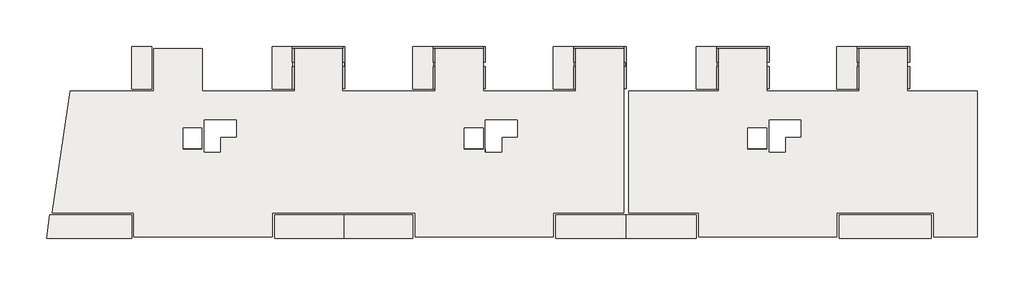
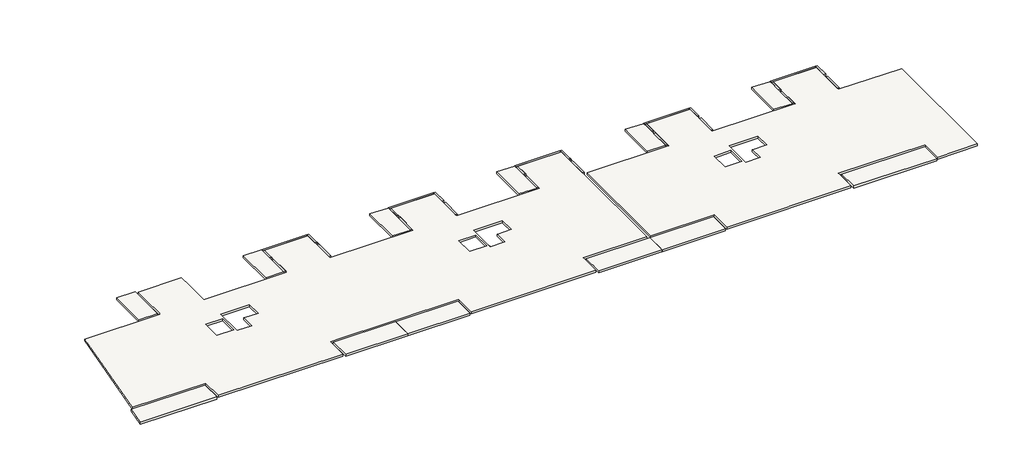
# One storey: 18 beams, 14 slabs.
"""IFC4 building model written with IfcOpenShell, lengths in millimetres."""

from ifc_helpers import new_model, si_unit, frame, origin, place, context, project, spatial, polyline, outline, extrude, faceted_brep, element, save

model = new_model("IFC4")

# Units and contexts
model_context = context("Model", 3, world=origin())
ifc_project = project(units=[si_unit("LENGTHUNIT", "METRE", prefix="MILLI")], contexts=[model_context])

# Site, building, storey
site = spatial("IfcSite", under=ifc_project)
building = spatial("IfcBuilding", under=site)
storey = spatial("IfcBuildingStorey", under=building, Name="Niv +1", Elevation=2700.0)

# Beams
placement = place(None, origin())
element("IfcBeam", 1, ObjectType="FREYS POUTRE BETON : -FREYS béton 20*38 C 25/30", at=placement, inside=storey, context=model_context, shape_type="SweptSolid", body=[
    extrude(outline(polyline([(-20235.4433224, 1086.34287), (-20235.4433224, 1286.34287), (-18635.4741279, 1286.34287), (-18635.4741279, 1086.34287), (-20235.4433224, 1086.34287)])), frame((0.0, 0.0, 2320.0), z_axis=(0.0, 0.0, 1.0), x_axis=(1.0, 0.0, 0.0)), (0.0, 0.0, 1.0), 180.0),
])
element("IfcBeam", 2, ObjectType="FREYS POUTRE BETON : -FREYS béton 20*38 C 25/30", at=placement, inside=storey, context=model_context, shape_type="SweptSolid", body=[
    extrude(outline(polyline([(5564.5312777, 1286.34287), (5564.5312777, 1086.34287), (5562.590834, 1086.34287), (5562.590834, 1286.34287), (5564.5312777, 1286.34287)])), frame((0.0, 0.0, 2500.0), z_axis=(0.0, 0.0, 1.0), x_axis=(1.0, 0.0, 0.0)), (0.0, 0.0, 1.0), 200.0),
    extrude(outline(polyline([(5364.5312777, 1286.34287), (5364.5312777, 1086.34287), (3764.5312756, 1086.34287), (3764.5312756, 1286.34287), (5364.5312777, 1286.34287)])), frame((0.0, 0.0, 2320.0), z_axis=(0.0, 0.0, 1.0), x_axis=(1.0, 0.0, 0.0)), (0.0, 0.0, 1.0), 180.0),
])
element("IfcBeam", 3, ObjectType="FREYS POUTRE BETON : -FREYS béton 20*38 C 25/30", at=placement, inside=storey, context=model_context, shape_type="SweptSolid", body=[
    extrude(outline(polyline([(27964.5312756, 1086.34287), (27964.5312756, 1286.34287), (29564.5058756, 1286.34287), (29564.5058756, 1086.34287), (27964.5312756, 1086.34287)])), frame((0.0, 0.0, 2320.0), z_axis=(0.0, 0.0, 1.0), x_axis=(1.0, 0.0, 0.0)), (0.0, 0.0, 1.0), 180.0),
])
element("IfcBeam", 4, ObjectType="FREYS POUTRE BETON : -FREYS béton 30*49 C 35/45", at=placement, inside=storey, context=model_context, shape_type="Brep", body=[
    faceted_brep([(-10905.0456065, 6426.3702418, 2700.0), (-10725.0456065, 6426.3702418, 2700.0), (-10725.0456065, 8346.3428728, 2700.0), (-10905.0456065, 8346.3428728, 2700.0), (-10415.0456065, 6426.3702418, 2400.0), (-10415.0456065, 9876.3428653, 2400.0), (-10415.0456065, 9876.3428653, 2500.0), (-10415.0456065, 6426.3702418, 2500.0), (-10905.0456065, 9876.3428653, 2400.0), (-10905.0456065, 6426.3702418, 2400.0), (-10905.0456065, 8346.3428728, 2400.0), (-10605.3743903, 8346.3428728, 2400.0), (-10605.3743903, 8696.3428728, 2400.0), (-10905.0456065, 8696.3428728, 2400.0), (-10905.0456065, 6426.3702418, 2490.0), (-10905.0456065, 6426.3702418, 2670.0), (-10905.0456065, 8346.3428728, 2670.0), (-10905.0456065, 8346.3428728, 2490.0), (-10905.0456065, 9876.3428653, 2700.0), (-10725.0456065, 9876.3428653, 2700.0), (-10725.0456065, 9876.3428653, 2500.0), (-10725.0456065, 6426.3702418, 2500.0), (-10725.0456065, 8696.3428728, 2500.0), (-10605.3743903, 8696.3428728, 2500.0), (-10605.3743903, 8346.3428728, 2500.0), (-10725.0456065, 8346.3428728, 2500.0), (-10725.0456065, 8696.3428728, 2700.0), (-10905.0456065, 8696.3428728, 2700.0), (-10905.0456065, 8696.3428728, 2670.0), (-10905.0456065, 8696.3428728, 2490.0)], [[[0, 1, 2, 3]], [[4, 5, 6, 7]], [[8, 5, 4, 9, 10, 11, 12, 13]], [[9, 14, 15, 0, 3, 16, 17, 10]], [[5, 8, 18, 19, 20, 6]], [[9, 4, 7, 21, 1, 0, 15, 14]], [[7, 6, 20, 22, 23, 24, 25, 21]], [[1, 21, 25, 2]], [[11, 24, 23, 12]], [[24, 11, 10, 17, 16, 3, 2, 25]], [[12, 23, 22, 26, 27, 28, 29, 13]], [[19, 18, 27, 26]], [[18, 8, 13, 29, 28, 27]], [[20, 19, 26, 22]]]),
])
element("IfcBeam", 5, ObjectType="FREYS POUTRE BETON : -FREYS béton 18*54 C 35/45", at=placement, inside=storey, context=model_context, shape_type="Brep", body=[
    faceted_brep([(-10905.0456065, 10056.3428653, 2700.0), (-10905.0456065, 9876.3428653, 2700.0), (-10725.0456065, 9876.3428653, 2700.0), (-6635.4433224, 9876.3428653, 2700.0), (-6635.0711747, 9876.3428653, 2700.0), (-6635.0711747, 10056.3428653, 2700.0), (-10905.0456065, 9876.3428653, 2400.0), (-10905.0456065, 9876.3428653, 2160.0), (-6635.0711747, 9876.3428653, 2160.0), (-10905.0456065, 10056.3428653, 2160.0), (-6635.0711747, 10056.3428653, 2160.0), (-10905.0456065, 10056.3428653, 2490.0), (-10905.0456065, 10056.3428653, 2670.0)], [[[0, 1, 2, 3, 4, 5]], [[1, 6, 7, 8, 4, 3, 2]], [[7, 9, 10, 8]], [[9, 11, 12, 0, 5, 10]], [[5, 4, 8, 10]], [[1, 0, 12, 11, 9, 7, 6]]]),
])
element("IfcBeam", 6, ObjectType="FREYS POUTRE BETON : -FREYS béton 20*54 C 35/45", at=placement, inside=storey, context=model_context, shape_type="Brep", body=[
    faceted_brep([(-6435.0711747, 6436.3428653, 2700.0), (-6635.0711747, 6436.3428653, 2700.0), (-6635.0711747, 6436.3428653, 2160.0), (-6435.0711747, 6436.3428653, 2160.0), (-6435.0711747, 10056.3428653, 2700.0), (-6635.0711747, 10056.3428653, 2700.0), (-6635.0711747, 9876.3428653, 2700.0), (-6635.0711747, 8696.3428728, 2700.0), (-6435.4687193, 8696.3428728, 2700.0), (-6435.4687193, 8346.3428728, 2700.0), (-6635.0711747, 8346.3428728, 2700.0), (-6635.0711747, 8346.3428728, 2160.0), (-6435.4687193, 8346.3428728, 2160.0), (-6435.4687193, 8696.3428728, 2160.0), (-6635.0711747, 8696.3428728, 2160.0), (-6635.0711747, 9876.3428653, 2160.0), (-6635.0711747, 10056.3428653, 2160.0), (-6435.0711747, 10056.3428653, 2160.0)], [[[0, 1, 2, 3]], [[1, 0, 4, 5, 6, 7, 8, 9, 10]], [[2, 1, 10, 11]], [[3, 2, 11, 12, 13, 14, 15, 16, 17]], [[0, 3, 17, 4]], [[5, 4, 17, 16]], [[12, 9, 8, 13]], [[9, 12, 11, 10]], [[13, 8, 7, 14]], [[5, 16, 15, 14, 7, 6]]]),
])
element("IfcBeam", 7, ObjectType="FREYS POUTRE BETON : -FREYS béton 30*49 C 35/45", at=placement, inside=storey, context=model_context, shape_type="Brep", body=[
    faceted_brep([(1094.556849, 6426.3702418, 2700.0), (1274.556849, 6426.3702418, 2700.0), (1274.556849, 8346.3428728, 2700.0), (1094.556849, 8346.3428728, 2700.0), (1584.556849, 6426.3702418, 2400.0), (1584.556849, 9876.3428653, 2400.0), (1584.556849, 9876.3428653, 2500.0), (1584.556849, 6426.3702418, 2500.0), (1094.556849, 9876.3428653, 2400.0), (1094.556849, 6426.3702418, 2400.0), (1094.556849, 8346.3428728, 2400.0), (1394.6256097, 8346.3428728, 2400.0), (1394.6256097, 8696.3428728, 2400.0), (1094.556849, 8696.3428728, 2400.0), (1094.556849, 6426.3702418, 2490.0), (1094.556849, 6426.3702418, 2670.0), (1094.556849, 9876.3428653, 2700.0), (1274.556849, 9876.3428653, 2700.0), (1274.556849, 9876.3428653, 2500.0), (1274.556849, 6426.3702418, 2500.0), (1274.556849, 8696.3428728, 2500.0), (1394.6256097, 8696.3428728, 2500.0), (1394.6256097, 8346.3428728, 2500.0), (1274.556849, 8346.3428728, 2500.0), (1274.556849, 8696.3428728, 2700.0), (1094.556849, 8696.3428728, 2700.0)], [[[0, 1, 2, 3]], [[4, 5, 6, 7]], [[8, 5, 4, 9, 10, 11, 12, 13]], [[9, 14, 15, 0, 3, 10]], [[5, 8, 16, 17, 18, 6]], [[9, 4, 7, 19, 1, 0, 15, 14]], [[7, 6, 18, 20, 21, 22, 23, 19]], [[1, 19, 23, 2]], [[11, 22, 21, 12]], [[22, 11, 10, 3, 2, 23]], [[12, 21, 20, 24, 25, 13]], [[17, 16, 25, 24]], [[16, 8, 13, 25]], [[18, 17, 24, 20]]]),
])
element("IfcBeam", 8, ObjectType="FREYS POUTRE BETON : -FREYS béton 18*54 C 35/45", at=placement, inside=storey, context=model_context, shape_type="Brep", body=[
    faceted_brep([(1094.556849, 10056.3428653, 2700.0), (1094.556849, 9876.3428653, 2700.0), (1274.556849, 9876.3428653, 2700.0), (5364.5312807, 9876.3428653, 2700.0), (5364.5312807, 10056.3428653, 2700.0), (1094.556849, 9876.3428653, 2400.0), (1094.556849, 9876.3428653, 2160.0), (5364.5312807, 9876.3428653, 2160.0), (5364.5312807, 9876.3428653, 2500.0), (1094.556849, 10056.3428653, 2160.0), (5364.5312807, 10056.3428653, 2160.0), (1094.556849, 10056.3428653, 2490.0), (1094.556849, 10056.3428653, 2670.0)], [[[0, 1, 2, 3, 4]], [[1, 5, 6, 7, 8, 3, 2]], [[6, 9, 10, 7]], [[9, 11, 12, 0, 4, 10]], [[4, 3, 8, 7, 10]], [[1, 0, 12, 11, 9, 6, 5]]]),
])
element("IfcBeam", 9, ObjectType="FREYS POUTRE BETON : -FREYS béton 20*54 C 35/45", at=placement, inside=storey, context=model_context, shape_type="Brep", body=[
    faceted_brep([(5364.5312807, 6436.3428653, 2160.0), (5564.5312807, 6436.3428653, 2160.0), (5564.5312807, 6436.3428653, 2700.0), (5374.5566776, 6436.3428653, 2700.0), (5374.5566776, 6436.3428653, 2500.0), (5364.5312807, 6436.3428653, 2500.0), (5564.5312807, 8346.3428728, 2700.0), (5374.5566776, 8346.3428728, 2700.0), (5364.5312807, 8346.3428728, 2160.0), (5564.5312807, 8346.3428728, 2160.0), (5374.5566776, 8346.3428728, 2500.0), (5364.5312807, 8346.3428728, 2500.0)], [[[0, 1, 2, 3, 4, 5]], [[3, 2, 6, 7]], [[1, 0, 8, 9]], [[2, 1, 9, 6]], [[5, 4, 10, 11]], [[7, 6, 9, 8, 11, 10]], [[0, 5, 11, 8]], [[4, 3, 7, 10]]]),
    faceted_brep([(5364.5312807, 10056.3428653, 2700.0), (5364.5312807, 10056.3428653, 2160.0), (5364.5312807, 9876.3428653, 2160.0), (5364.5312807, 8696.3428728, 2160.0), (5364.5312807, 8696.3428728, 2500.0), (5364.5312807, 9876.3428653, 2500.0), (5364.5312807, 9876.3428653, 2700.0), (5564.5312807, 10056.3428653, 2700.0), (5564.5312807, 10056.3428653, 2160.0), (5374.5566776, 9876.3428653, 2500.0), (5374.5566776, 9876.3428653, 2700.0), (5374.5566776, 8696.3428728, 2500.0), (5374.5566776, 8696.3428728, 2700.0), (5564.5312807, 8696.3428728, 2700.0), (5564.5312807, 8696.3428728, 2160.0)], [[[0, 1, 2, 3, 4, 5, 6]], [[0, 7, 8, 1]], [[9, 10, 6, 5]], [[10, 9, 11, 12]], [[13, 12, 11, 4, 3, 14]], [[7, 0, 6, 10, 12, 13]], [[1, 8, 14, 3, 2]], [[8, 7, 13, 14]], [[9, 5, 4, 11]]]),
])
element("IfcBeam", 10, ObjectType="FREYS POUTRE BETON : -FREYS béton 30*49 C 35/45", at=placement, inside=storey, context=model_context, shape_type="Brep", body=[
    faceted_brep([(13094.556849, 6426.3702418, 2700.0), (13275.4308018, 6426.3702418, 2700.0), (13275.4308018, 8346.3428728, 2700.0), (13094.556849, 8346.3428728, 2700.0), (13584.556849, 6426.3702418, 2400.0), (13584.556849, 9876.3428653, 2400.0), (13584.556849, 9876.3428653, 2500.0), (13584.556849, 6426.3702418, 2500.0), (13094.556849, 9876.3428653, 2400.0), (13094.556849, 6426.3702418, 2400.0), (13094.556849, 8346.3428728, 2400.0), (13394.6256097, 8346.3428728, 2400.0), (13394.6256097, 8696.3428728, 2400.0), (13094.556849, 8696.3428728, 2400.0), (13094.556849, 6426.3702418, 2490.0), (13094.556849, 6426.3702418, 2670.0), (13094.556849, 9876.3428653, 2700.0), (13275.4308018, 9876.3428653, 2700.0), (13275.4308018, 9876.3428653, 2500.0), (13275.4308018, 6426.3702418, 2500.0), (13275.4308018, 8696.3428728, 2500.0), (13394.6256097, 8696.3428728, 2500.0), (13394.6256097, 8346.3428728, 2500.0), (13275.4308018, 8346.3428728, 2500.0), (13275.4308018, 8696.3428728, 2700.0), (13094.556849, 8696.3428728, 2700.0)], [[[0, 1, 2, 3]], [[4, 5, 6, 7]], [[8, 5, 4, 9, 10, 11, 12, 13]], [[9, 14, 15, 0, 3, 10]], [[5, 8, 16, 17, 18, 6]], [[9, 4, 7, 19, 1, 0, 15, 14]], [[7, 6, 18, 20, 21, 22, 23, 19]], [[1, 19, 23, 2]], [[11, 22, 21, 12]], [[22, 11, 10, 3, 2, 23]], [[12, 21, 20, 24, 25, 13]], [[17, 16, 25, 24]], [[16, 8, 13, 25]], [[18, 17, 24, 20]]]),
])
element("IfcBeam", 11, ObjectType="FREYS POUTRE BETON : -FREYS béton 18*54 C 35/45", at=placement, inside=storey, context=model_context, shape_type="Brep", body=[
    faceted_brep([(13094.556849, 10056.3428653, 2700.0), (13094.556849, 9876.3428653, 2700.0), (13275.4308018, 9876.3428653, 2700.0), (17364.5312807, 9876.3428653, 2700.0), (17364.5312807, 10056.3428653, 2700.0), (13094.556849, 9876.3428653, 2400.0), (13094.556849, 9876.3428653, 2160.0), (17364.5312807, 9876.3428653, 2160.0), (13094.556849, 10056.3428653, 2160.0), (17364.5312807, 10056.3428653, 2160.0), (13094.556849, 10056.3428653, 2490.0), (13094.556849, 10056.3428653, 2670.0)], [[[0, 1, 2, 3, 4]], [[1, 5, 6, 7, 3, 2]], [[6, 8, 9, 7]], [[8, 10, 11, 0, 4, 9]], [[4, 3, 7, 9]], [[1, 0, 11, 10, 8, 6, 5]]]),
])
element("IfcBeam", 12, ObjectType="FREYS POUTRE BETON : -FREYS béton 20*54 C 35/45", at=placement, inside=storey, context=model_context, shape_type="Brep", body=[
    faceted_brep([(17364.5312807, 6436.3428653, 2160.0), (17564.5312807, 6436.3428653, 2160.0), (17564.5312807, 6436.3428653, 2700.0), (17374.5566776, 6436.3428653, 2700.0), (17374.5566776, 6436.3428653, 2500.0), (17364.5312807, 6436.3428653, 2500.0), (17564.5312807, 10056.3428653, 2700.0), (17364.5312807, 10056.3428653, 2700.0), (17364.5312807, 9876.3428699, 2700.0), (17374.5566776, 9876.3428699, 2700.0), (17374.5566776, 8696.3428728, 2700.0), (17554.5471618, 8696.3428728, 2700.0), (17554.5471618, 8346.3428728, 2700.0), (17374.5566776, 8346.3428728, 2700.0), (17364.5312807, 10056.3428653, 2160.0), (17364.5312807, 9876.3428653, 2160.0), (17364.5312807, 8696.3428728, 2160.0), (17364.5312807, 8696.3428728, 2500.0), (17364.5312807, 9876.3428699, 2500.0), (17364.5312807, 8346.3428728, 2160.0), (17554.5471618, 8346.3428728, 2160.0), (17554.5471618, 8696.3428728, 2160.0), (17564.5312807, 10056.3428653, 2160.0), (17374.5566776, 8346.3428728, 2500.0), (17364.5312807, 8346.3428728, 2500.0), (17374.5566776, 9876.3428699, 2500.0), (17374.5566776, 8696.3428728, 2500.0)], [[[0, 1, 2, 3, 4, 5]], [[2, 6, 7, 8, 9, 10, 11, 12, 13, 3]], [[7, 14, 15, 16, 17, 18, 8]], [[1, 0, 19, 20, 21, 16, 15, 14, 22]], [[2, 1, 22, 6]], [[7, 6, 22, 14]], [[5, 4, 23, 24]], [[25, 9, 8, 18]], [[9, 25, 26, 10]], [[20, 12, 11, 21]], [[12, 20, 19, 24, 23, 13]], [[21, 11, 10, 26, 17, 16]], [[0, 5, 24, 19]], [[25, 18, 17, 26]], [[4, 3, 13, 23]]]),
])
element("IfcBeam", 13, ObjectType="FREYS POUTRE BETON : -FREYS béton 30*49 C 35/45", at=placement, inside=storey, context=model_context, shape_type="Brep", body=[
    faceted_brep([(25294.556849, 6426.3428699, 2700.0), (25474.556849, 6426.3428699, 2700.0), (25474.556849, 8346.3428728, 2700.0), (25294.556849, 8346.3428728, 2700.0), (25784.556849, 9876.3428653, 2400.0), (25784.556849, 9876.3428653, 2700.0), (25784.556849, 9874.7647075, 2700.0), (25784.556849, 9874.7647075, 2500.0), (25784.556849, 6426.3428699, 2500.0), (25784.556849, 6426.3428699, 2400.0), (25294.556849, 9876.3428653, 2400.0), (25294.556849, 6426.3428699, 2400.0), (25294.556849, 8346.3428728, 2400.0), (25594.6256097, 8346.3428728, 2400.0), (25594.6256097, 8696.3428728, 2400.0), (25294.556849, 8696.3428728, 2400.0), (25294.556849, 9876.3428653, 2700.0), (25474.556849, 6426.3428699, 2500.0), (25474.556849, 9874.7647075, 2500.0), (25474.556849, 8696.3428728, 2500.0), (25594.6256097, 8696.3428728, 2500.0), (25594.6256097, 8346.3428728, 2500.0), (25474.556849, 8346.3428728, 2500.0), (25474.556849, 9874.7647075, 2700.0), (25474.556849, 8696.3428728, 2700.0), (25294.556849, 8696.3428728, 2700.0)], [[[0, 1, 2, 3]], [[4, 5, 6, 7, 8, 9]], [[10, 4, 9, 11, 12, 13, 14, 15]], [[11, 0, 3, 12]], [[16, 5, 4, 10]], [[11, 9, 8, 17, 1, 0]], [[7, 18, 19, 20, 21, 22, 17, 8]], [[1, 17, 22, 2]], [[23, 18, 7, 6]], [[13, 21, 20, 14]], [[21, 13, 12, 3, 2, 22]], [[14, 20, 19, 24, 25, 15]], [[5, 16, 25, 24, 23, 6]], [[16, 10, 15, 25]], [[18, 23, 24, 19]]]),
])
element("IfcBeam", 14, ObjectType="FREYS POUTRE BETON : -FREYS béton 18*54 C 35/45", at=placement, inside=storey, context=model_context, shape_type="Brep", body=[
    faceted_brep([(25294.556849, 10056.3428653, 2700.0), (25294.556849, 9876.3428653, 2700.0), (25784.556849, 9876.3428653, 2700.0), (29564.5312807, 9876.3428653, 2700.0), (29564.5312807, 10056.3428653, 2700.0), (25294.556849, 9876.3428653, 2400.0), (25294.556849, 9876.3428653, 2160.0), (29564.5312807, 9876.3428653, 2160.0), (25294.556849, 10056.3428653, 2160.0), (29564.5312807, 10056.3428653, 2160.0), (25294.556849, 10056.3428653, 2490.0), (25294.556849, 10056.3428653, 2670.0)], [[[0, 1, 2, 3, 4]], [[1, 5, 6, 7, 3, 2]], [[6, 8, 9, 7]], [[8, 10, 11, 0, 4, 9]], [[4, 3, 7, 9]], [[1, 0, 11, 10, 8, 6, 5]]]),
])
element("IfcBeam", 15, ObjectType="FREYS POUTRE BETON : -FREYS béton 20*54 C 35/45", at=placement, inside=storey, context=model_context, shape_type="Brep", body=[
    faceted_brep([(29564.5312807, 6436.3428653, 2160.0), (29764.5312807, 6436.3428653, 2160.0), (29764.5312807, 6436.3428653, 2700.0), (29584.5566776, 6436.3428653, 2700.0), (29584.5566776, 6436.3428653, 2500.0), (29564.5312807, 6436.3428653, 2500.0), (29764.5312807, 8346.3428728, 2700.0), (29584.5566776, 8346.3428728, 2700.0), (29564.5312807, 8346.3428728, 2160.0), (29764.5312807, 8346.3428728, 2160.0), (29584.5566776, 8346.3428728, 2500.0), (29564.5312807, 8346.3428728, 2500.0)], [[[0, 1, 2, 3, 4, 5]], [[3, 2, 6, 7]], [[1, 0, 8, 9]], [[2, 1, 9, 6]], [[5, 4, 10, 11]], [[7, 6, 9, 8, 11, 10]], [[0, 5, 11, 8]], [[4, 3, 7, 10]]]),
    faceted_brep([(29564.5312807, 10056.3428653, 2700.0), (29564.5312807, 10056.3428653, 2160.0), (29564.5312807, 9876.3428653, 2160.0), (29564.5312807, 8696.3428728, 2160.0), (29564.5312807, 8696.3428728, 2500.0), (29564.5312807, 9874.7647075, 2500.0), (29564.5312807, 9874.7647075, 2700.0), (29564.5312807, 9876.3428653, 2700.0), (29764.5312807, 10056.3428653, 2700.0), (29764.5312807, 10056.3428653, 2160.0), (29584.5566776, 9874.7647075, 2500.0), (29584.5566776, 9874.7647075, 2700.0), (29584.5566776, 8696.3428728, 2500.0), (29584.5566776, 8696.3428728, 2700.0), (29764.5312807, 8696.3428728, 2700.0), (29764.5312807, 8696.3428728, 2160.0)], [[[0, 1, 2, 3, 4, 5, 6, 7]], [[0, 8, 9, 1]], [[10, 11, 6, 5]], [[11, 10, 12, 13]], [[14, 13, 12, 4, 3, 15]], [[8, 0, 7, 6, 11, 13, 14]], [[1, 9, 15, 3, 2]], [[9, 8, 14, 15]], [[10, 5, 4, 12]]]),
])
element("IfcBeam", 16, ObjectType="FREYS POUTRE BETON : -FREYS béton 30*49 C 35/45", at=placement, inside=storey, context=model_context, shape_type="Brep", body=[
    faceted_brep([(37294.556849, 6426.3428699, 2700.0), (37474.5566776, 6426.3428699, 2700.0), (37474.5566776, 8346.3428728, 2700.0), (37294.556849, 8346.3428728, 2700.0), (37784.556849, 6426.3428699, 2400.0), (37784.556849, 9876.3428653, 2400.0), (37784.556849, 9876.3428653, 2500.0), (37784.556849, 6426.3428699, 2500.0), (37294.556849, 9876.3428653, 2400.0), (37294.556849, 6426.3428699, 2400.0), (37294.556849, 8346.3428728, 2400.0), (37594.6256097, 8346.3428728, 2400.0), (37594.6256097, 8696.3428728, 2400.0), (37294.556849, 8696.3428728, 2400.0), (37294.556849, 9876.3428653, 2700.0), (37474.5566776, 9876.3428653, 2700.0), (37474.5566776, 9876.3428653, 2500.0), (37474.5566776, 6426.3428699, 2500.0), (37474.5566776, 8696.3428728, 2500.0), (37594.6256097, 8696.3428728, 2500.0), (37594.6256097, 8346.3428728, 2500.0), (37474.5566776, 8346.3428728, 2500.0), (37474.5566776, 8696.3428728, 2700.0), (37294.556849, 8696.3428728, 2700.0)], [[[0, 1, 2, 3]], [[4, 5, 6, 7]], [[8, 5, 4, 9, 10, 11, 12, 13]], [[9, 0, 3, 10]], [[5, 8, 14, 15, 16, 6]], [[9, 4, 7, 17, 1, 0]], [[7, 6, 16, 18, 19, 20, 21, 17]], [[1, 17, 21, 2]], [[11, 20, 19, 12]], [[20, 11, 10, 3, 2, 21]], [[12, 19, 18, 22, 23, 13]], [[15, 14, 23, 22]], [[14, 8, 13, 23]], [[16, 15, 22, 18]]]),
])
element("IfcBeam", 17, ObjectType="FREYS POUTRE BETON : -FREYS béton 18*54 C 35/45", at=placement, inside=storey, context=model_context, shape_type="Brep", body=[
    faceted_brep([(37294.556849, 10056.3428653, 2700.0), (37294.556849, 9876.3428653, 2700.0), (37474.5566776, 9876.3428653, 2700.0), (41564.5312807, 9876.3428653, 2700.0), (41564.5312807, 10056.3428653, 2700.0), (37294.556849, 9876.3428653, 2400.0), (37294.556849, 9876.3428653, 2160.0), (41564.5312807, 9876.3428653, 2160.0), (37294.556849, 10056.3428653, 2160.0), (41564.5312807, 10056.3428653, 2160.0), (37294.556849, 10056.3428653, 2490.0), (37294.556849, 10056.3428653, 2670.0)], [[[0, 1, 2, 3, 4]], [[1, 5, 6, 7, 3, 2]], [[6, 8, 9, 7]], [[8, 10, 11, 0, 4, 9]], [[4, 3, 7, 9]], [[1, 0, 11, 10, 8, 6, 5]]]),
])
element("IfcBeam", 18, ObjectType="FREYS POUTRE BETON : -FREYS béton 20*54 C 35/45", at=placement, inside=storey, context=model_context, shape_type="Brep", body=[
    faceted_brep([(41764.5312807, 6436.3428653, 2700.0), (41564.5312807, 6436.3428653, 2700.0), (41564.5312807, 6436.3428653, 2500.0), (41564.5312807, 6436.3428653, 2160.0), (41764.5312807, 6436.3428653, 2160.0), (41764.5312807, 8346.3428728, 2700.0), (41564.5312807, 8346.3428728, 2700.0), (41564.5312807, 8346.3428728, 2160.0), (41764.5312807, 8346.3428728, 2160.0)], [[[0, 1, 2, 3, 4]], [[1, 0, 5, 6]], [[2, 1, 6, 7, 3]], [[4, 3, 7, 8]], [[0, 4, 8, 5]], [[6, 5, 8, 7]]]),
    faceted_brep([(41564.5312807, 10056.3428653, 2700.0), (41764.5312807, 10056.3428653, 2700.0), (41764.5312807, 10056.3428653, 2160.0), (41564.5312807, 10056.3428653, 2160.0), (41764.5312807, 8696.3428728, 2700.0), (41564.5312807, 8696.3428728, 2700.0), (41564.5312807, 8696.3428728, 2160.0), (41764.5312807, 8696.3428728, 2160.0), (41564.5312807, 9876.3428653, 2700.0), (41564.5312807, 9876.3428653, 2160.0)], [[[0, 1, 2, 3]], [[4, 5, 6, 7]], [[1, 0, 8, 5, 4]], [[0, 3, 9, 6, 5, 8]], [[3, 2, 7, 6, 9]], [[2, 1, 4, 7]]]),
])

# Slabs
element("IfcSlab", 19, ObjectType="FREYS BA20 C25/30", at=placement, inside=storey, context=model_context, shape_type="Brep", body=[
    faceted_brep([(-22725.443151, 6246.3734547, 2500.0), (-22725.443151, 6426.3702418, 2500.0), (-22725.443151, 8346.3428728, 2500.0), (-22725.443151, 8696.3428728, 2500.0), (-22725.443151, 9876.3428653, 2500.0), (-22415.443151, 9876.3428653, 2500.0), (-18635.4687193, 9876.3428653, 2500.0), (-18615.4433224, 9876.3428653, 2500.0), (-18615.4433224, 8696.3428728, 2500.0), (-18615.4433224, 8346.3428728, 2500.0), (-18615.4433224, 6436.3428653, 2500.0), (-18615.4433224, 6246.3839277, 2500.0), (-10725.0456065, 6246.3839277, 2500.0), (-10725.0456065, 6426.3702418, 2500.0), (-10725.0456065, 8346.3428728, 2500.0), (-10725.0456065, 8696.3428728, 2500.0), (-10725.0456065, 9876.3428653, 2500.0), (-10415.0456065, 9876.3428653, 2500.0), (-6635.4433224, 9876.3428653, 2500.0), (-6635.4433224, 8696.3428728, 2500.0), (-6635.4433224, 8346.3428728, 2500.0), (-6635.4433224, 6246.3702418, 2500.0), (1274.556849, 6246.3702418, 2500.0), (1274.556849, 6426.3702418, 2500.0), (1274.556849, 8346.3428728, 2500.0), (1274.556849, 8696.3428728, 2500.0), (1274.556849, 9876.3428653, 2500.0), (1584.556849, 9876.3428653, 2500.0), (5364.5312807, 9876.3428653, 2500.0), (5374.5566776, 9876.3428653, 2500.0), (5374.5566776, 8696.3428728, 2500.0), (5374.5566776, 8346.3428728, 2500.0), (5374.5566776, 6436.3428653, 2500.0), (5374.5566776, 6246.3428699, 2500.0), (13275.4308018, 6246.3428699, 2500.0), (13275.4308018, 6426.3702418, 2500.0), (13275.4308018, 8346.3428728, 2500.0), (13275.4308018, 8696.3428728, 2500.0), (13275.4308018, 9876.3428699, 2500.0), (17364.5312807, 9876.3428699, 2500.0), (17374.5566776, 9876.3428699, 2500.0), (17374.5566776, 8696.3428728, 2500.0), (17374.5566776, 8346.3428728, 2500.0), (17374.5566776, 6436.3428653, 2500.0), (17374.5566776, -4173.6825564, 2500.0), (11364.5281637, -4173.6825564, 2500.0), (11364.5281637, -6223.682546, 2500.0), (-435.4687207, -6223.682546, 2500.0), (-435.4687207, -4173.6823111, 2500.0), (-12635.4687207, -4173.6823111, 2500.0), (-12635.4687207, -6223.661173, 2500.0), (-24435.4687207, -6223.661173, 2500.0), (-24435.4687207, -4173.6571231, 2500.0), (-31401.7031415, -4173.6571231, 2500.0), (-29881.1270833, 6246.3734547, 2500.0), (-18635.4741279, 3086.3428699, 2500.0), (-20235.4433224, 3086.3428699, 2500.0), (-20235.4433224, 1286.34287, 2500.0), (-18635.4741279, 1286.34287, 2500.0), (-15715.4423564, 3746.3428169, 2500.0), (-18435.4741279, 3746.3428169, 2500.0), (-18435.4741279, 1046.3702418, 2500.0), (-17055.4423564, 1046.3702418, 2500.0), (-17055.4423564, 2313.1211497, 2500.0), (-15715.4423564, 2313.1211497, 2500.0), (5364.5004702, 3086.3428699, 2500.0), (3764.5312756, 3086.3428699, 2500.0), (3764.5312756, 1286.34287, 2500.0), (5364.5004702, 1286.34287, 2500.0), (8282.6226054, 3746.3428169, 2500.0), (5562.590834, 3746.3428169, 2500.0), (5562.590834, 1286.34287, 2500.0), (5562.590834, 1086.34287, 2500.0), (5562.590834, 1046.3702418, 2500.0), (6942.6226054, 1046.3702418, 2500.0), (6942.6226054, 2313.1211497, 2500.0), (8282.6226054, 2313.1211497, 2500.0), (-22725.443151, 9876.3428653, 2700.0), (-22725.443151, 8696.3428728, 2700.0), (-22725.443151, 8346.3428728, 2700.0), (-22725.443151, 6426.3702418, 2700.0), (-22725.443151, 6246.3734547, 2700.0), (-29881.1270833, 6246.3734547, 2700.0), (-31401.7031415, -4173.6571231, 2700.0), (-24435.4687207, -4173.6571231, 2700.0), (-24435.4687207, -6223.661173, 2700.0), (-12635.4687207, -6223.661173, 2700.0), (-12635.4687207, -4173.6823111, 2700.0), (-435.4687207, -4173.6823111, 2700.0), (-435.4687207, -6223.682546, 2700.0), (11364.5281637, -6223.682546, 2700.0), (11364.5281637, -4173.6825564, 2700.0), (17374.5566776, -4173.6825564, 2700.0), (17374.5566776, 6436.3428653, 2700.0), (17374.5566776, 8346.3428728, 2700.0), (17374.5566776, 8696.3428728, 2700.0), (17374.5566776, 9876.3428699, 2700.0), (17364.5312807, 9876.3428699, 2700.0), (13275.4308018, 9876.3428699, 2700.0), (13275.4308018, 8696.3428728, 2700.0), (13275.4308018, 8346.3428728, 2700.0), (13275.4308018, 6426.3702418, 2700.0), (13275.4308018, 6246.3428699, 2700.0), (5374.5566776, 6246.3428699, 2700.0), (5374.5566776, 6436.3428653, 2700.0), (5374.5566776, 8346.3428728, 2700.0), (5374.5566776, 8696.3428728, 2700.0), (5374.5566776, 9876.3428653, 2700.0), (5364.5312807, 9876.3428653, 2700.0), (1274.556849, 9876.3428653, 2700.0), (1274.556849, 8696.3428728, 2700.0), (1274.556849, 8346.3428728, 2700.0), (1274.556849, 6426.3702418, 2700.0), (1274.556849, 6246.3702418, 2700.0), (-6635.4433224, 6246.3702418, 2700.0), (-6635.4433224, 8346.3428728, 2700.0), (-6635.4433224, 8696.3428728, 2700.0), (-6635.4433224, 9876.3428653, 2700.0), (-10725.0456065, 9876.3428653, 2700.0), (-10725.0456065, 8696.3428728, 2700.0), (-10725.0456065, 8346.3428728, 2700.0), (-10725.0456065, 6426.3702418, 2700.0), (-10725.0456065, 6246.3839277, 2700.0), (-18615.4433224, 6246.3839277, 2700.0), (-18615.4433224, 6436.3428653, 2700.0), (-18615.4433224, 8346.3428728, 2700.0), (-18615.4433224, 8696.3428728, 2700.0), (-18615.4433224, 9876.3428653, 2700.0), (-18635.4687193, 9876.3428653, 2700.0), (-20235.4433224, 3086.3428699, 2700.0), (-18635.4741279, 3086.3428699, 2700.0), (-18635.4741279, 1286.34287, 2700.0), (-20235.4433224, 1286.34287, 2700.0), (-18435.4741279, 3746.3428169, 2700.0), (-15715.4423564, 3746.3428169, 2700.0), (-15715.4423564, 2313.1211497, 2700.0), (-17055.4423564, 2313.1211497, 2700.0), (-17055.4423564, 1046.3702418, 2700.0), (-18435.4741279, 1046.3702418, 2700.0), (3764.5312756, 3086.3428699, 2700.0), (5364.5004702, 3086.3428699, 2700.0), (5364.5004702, 1286.34287, 2700.0), (3764.5312756, 1286.34287, 2700.0), (5562.590834, 3746.3428169, 2700.0), (8282.6226054, 3746.3428169, 2700.0), (8282.6226054, 2313.1211497, 2700.0), (6942.6226054, 2313.1211497, 2700.0), (6942.6226054, 1046.3702418, 2700.0), (5562.590834, 1046.3702418, 2700.0), (5562.590834, 1086.34287, 2700.0), (5562.590834, 1286.34287, 2700.0)], [[[0, 1, 2, 3, 4, 5, 6, 7, 8, 9, 10, 11, 12, 13, 14, 15, 16, 17, 18, 19, 20, 21, 22, 23, 24, 25, 26, 27, 28, 29, 30, 31, 32, 33, 34, 35, 36, 37, 38, 39, 40, 41, 42, 43, 44, 45, 46, 47, 48, 49, 50, 51, 52, 53, 54], [55, 56, 57, 58], [59, 60, 61, 62, 63, 64], [65, 66, 67, 68], [69, 70, 71, 72, 73, 74, 75, 76]], [[77, 78, 79, 80, 81, 82, 83, 84, 85, 86, 87, 88, 89, 90, 91, 92, 93, 94, 95, 96, 97, 98, 99, 100, 101, 102, 103, 104, 105, 106, 107, 108, 109, 110, 111, 112, 113, 114, 115, 116, 117, 118, 119, 120, 121, 122, 123, 124, 125, 126, 127, 128], [129, 130, 131, 132], [133, 134, 135, 136, 137, 138], [139, 140, 141, 142], [143, 144, 145, 146, 147, 148, 149, 150]], [[4, 3, 2, 1, 0, 81, 80, 79, 78, 77]], [[7, 6, 5, 4, 77, 128, 127]], [[11, 10, 9, 8, 7, 127, 126, 125, 124, 123]], [[12, 11, 123, 122]], [[16, 15, 14, 13, 12, 122, 121, 120, 119, 118]], [[18, 17, 16, 118, 117]], [[21, 20, 19, 18, 117, 116, 115, 114]], [[22, 21, 114, 113]], [[26, 25, 24, 23, 22, 113, 112, 111, 110, 109]], [[29, 28, 27, 26, 109, 108, 107]], [[33, 32, 31, 30, 29, 107, 106, 105, 104, 103]], [[34, 33, 103, 102]], [[38, 37, 36, 35, 34, 102, 101, 100, 99, 98]], [[40, 39, 38, 98, 97, 96]], [[44, 43, 42, 41, 40, 96, 95, 94, 93, 92]], [[45, 44, 92, 91]], [[46, 45, 91, 90]], [[47, 46, 90, 89]], [[48, 47, 89, 88]], [[49, 48, 88, 87]], [[50, 49, 87, 86]], [[51, 50, 86, 85]], [[52, 51, 85, 84]], [[53, 52, 84, 83]], [[54, 53, 83, 82]], [[0, 54, 82, 81]], [[55, 130, 129, 56]], [[56, 129, 132, 57]], [[57, 132, 131, 58]], [[130, 55, 58, 131]], [[59, 134, 133, 60]], [[60, 133, 138, 61]], [[61, 138, 137, 62]], [[62, 137, 136, 63]], [[63, 136, 135, 64]], [[134, 59, 64, 135]], [[65, 140, 139, 66]], [[66, 139, 142, 67]], [[67, 142, 141, 68]], [[140, 65, 68, 141]], [[69, 144, 143, 70]], [[70, 143, 150, 149, 148, 73, 72, 71]], [[73, 148, 147, 74]], [[74, 147, 146, 75]], [[75, 146, 145, 76]], [[144, 69, 76, 145]]]),
])
element("IfcSlab", 20, ObjectType="FREYS BA21-Var C25/30", at=placement, inside=storey, context=model_context, shape_type="Brep", body=[
    faceted_brep([(-10905.0456065, 10056.3428653, 2490.0), (-10905.0456065, 8696.3428728, 2490.0), (-10905.0456065, 8346.3428728, 2490.0), (-10905.0456065, 6426.3702418, 2490.0), (-12635.4687208, 6426.3702418, 2490.0), (-12635.4687208, 10056.3428653, 2490.0), (-10905.0456065, 10056.3428653, 2670.0), (-10905.0456065, 8696.3428728, 2670.0), (-10905.0456065, 8346.3428728, 2670.0), (-10905.0456065, 6426.3702418, 2670.0), (-12635.4687208, 6426.3702418, 2700.0), (-12635.4687208, 10056.3428653, 2700.0)], [[[0, 1, 2, 3, 4, 5]], [[3, 2, 1, 0, 6, 7, 8, 9]], [[4, 3, 9, 10]], [[5, 4, 10, 11]], [[0, 5, 11, 6]], [[11, 10, 9, 8, 7, 6]]]),
])
element("IfcSlab", 21, ObjectType="FREYS BA21-Var C25/30", at=placement, inside=storey, context=model_context, shape_type="SweptSolid", body=[
    extrude(outline(polyline([(2490.0, -24635.8662653), (2490.0, -22905.443151), (2670.0, -22905.443151), (2700.0, -24635.8662653), (2490.0, -24635.8662653)])), frame((0.0, 6426.3702418, 0.0), z_axis=(0.0, 1.0, 0.0), x_axis=(0.0, 0.0, 1.0)), (0.0, 0.0, 1.0), 3629.9726235),
])
element("IfcSlab", 22, ObjectType="FREYS BA21-Var C25/30", at=placement, inside=storey, context=model_context, shape_type="SweptSolid", body=[
    extrude(outline(polyline([(2490.0, -635.8662653), (2490.0, 1094.556849), (2670.0, 1094.556849), (2700.0, -635.8662653), (2490.0, -635.8662653)])), frame((0.0, 6426.3702418, 0.0), z_axis=(0.0, 1.0, 0.0), x_axis=(0.0, 0.0, 1.0)), (0.0, 0.0, 1.0), 3629.9726235),
])
element("IfcSlab", 23, ObjectType="FREYS BA21-Var C25/30", at=placement, inside=storey, context=model_context, shape_type="SweptSolid", body=[
    extrude(outline(polyline([(2490.0, 11364.1337347), (2490.0, 13094.556849), (2670.0, 13094.556849), (2700.0, 11364.1337347), (2490.0, 11364.1337347)])), frame((0.0, 6426.3702418, 0.0), z_axis=(0.0, 1.0, 0.0), x_axis=(0.0, 0.0, 1.0)), (0.0, 0.0, 1.0), 3629.9726235),
])
element("IfcSlab", 24, ObjectType="FREYS BA21-Var C25/30", at=placement, inside=storey, context=model_context, shape_type="SweptSolid", body=[
    extrude(outline(polyline([(2490.0, 23564.1337347), (2490.0, 25294.556849), (2670.0, 25294.556849), (2700.0, 23564.1337347), (2490.0, 23564.1337347)])), frame((0.0, 6426.3702418, 0.0), z_axis=(0.0, 1.0, 0.0), x_axis=(0.0, 0.0, 1.0)), (0.0, 0.0, 1.0), 3629.9726235),
])
element("IfcSlab", 25, ObjectType="FREYS BA21-Var C25/30", at=placement, inside=storey, context=model_context, shape_type="SweptSolid", body=[
    extrude(outline(polyline([(2490.0, 35564.1337347), (2490.0, 37294.556849), (2670.0, 37294.556849), (2700.0, 35564.1337347), (2490.0, 35564.1337347)])), frame((0.0, 6426.3702418, 0.0), z_axis=(0.0, 1.0, 0.0), x_axis=(0.0, 0.0, 1.0)), (0.0, 0.0, 1.0), 3629.9726235),
])
element("IfcSlab", 26, ObjectType="FREYS BA21-Var C25/30", at=placement, inside=storey, context=model_context, shape_type="Brep", body=[
    faceted_brep([(-31893.063979, -6363.6776516, 2490.0), (-31599.7453491, -4353.6571231, 2490.0), (-24635.4687207, -4353.6571231, 2490.0), (-24635.4687207, -6363.6776516, 2490.0), (-31893.063979, -6363.6776516, 2700.0), (-31599.7453491, -4353.6571231, 2670.0), (-24635.4687207, -4353.6571231, 2670.0), (-24635.4687207, -6363.6776516, 2700.0)], [[[0, 1, 2, 3]], [[1, 0, 4, 5]], [[2, 1, 5, 6]], [[3, 2, 6, 7]], [[0, 3, 7, 4]], [[7, 6, 5, 4]]]),
])
element("IfcSlab", 27, ObjectType="FREYS BA21-Var C25/30", at=placement, inside=storey, context=model_context, shape_type="SweptSolid", body=[
    extrude(outline(polyline([(-4353.6823111, 2490.0), (-6363.6782535, 2490.0), (-6363.6782535, 2700.0), (-4353.6823111, 2670.0), (-4353.6823111, 2490.0)])), frame((-12435.4687207, 0.0, 0.0), z_axis=(1.0, 0.0, 0.0), x_axis=(0.0, 1.0, 0.0)), (0.0, 0.0, 1.0), 5894.999993),
])
element("IfcSlab", 28, ObjectType="FREYS BA21-Var C25/30", at=placement, inside=storey, context=model_context, shape_type="SweptSolid", body=[
    extrude(outline(polyline([(-4353.6823111, 2490.0), (-6363.6782535, 2490.0), (-6363.6782535, 2700.0), (-4353.6823111, 2670.0), (-4353.6823111, 2490.0)])), frame((-6530.4687278, 0.0, 0.0), z_axis=(1.0, 0.0, 0.0), x_axis=(0.0, 1.0, 0.0)), (0.0, 0.0, 1.0), 5889.9999999),
])
element("IfcSlab", 29, ObjectType="FREYS BA21-Var C25/30", at=placement, inside=storey, context=model_context, shape_type="SweptSolid", body=[
    extrude(outline(polyline([(-4353.6825564, 2490.0), (-6363.6722782, 2490.0), (-6363.6722782, 2700.0), (-4353.6825564, 2670.0), (-4353.6825564, 2490.0)])), frame((11564.5281637, 0.0, 0.0), z_axis=(1.0, 0.0, 0.0), x_axis=(0.0, 1.0, 0.0)), (0.0, 0.0, 1.0), 5989.9775191),
])
element("IfcSlab", 30, ObjectType="FREYS BA21-Var C25/30", at=placement, inside=storey, context=model_context, shape_type="SweptSolid", body=[
    extrude(outline(polyline([(-4353.6825564, 2490.0), (-6363.6722782, 2490.0), (-6363.6722782, 2700.0), (-4353.6825564, 2670.0), (-4353.6825564, 2490.0)])), frame((17574.5789126, 0.0, 0.0), z_axis=(1.0, 0.0, 0.0), x_axis=(0.0, 1.0, 0.0)), (0.0, 0.0, 1.0), 5989.9775191),
])
element("IfcSlab", 31, ObjectType="FREYS BA21-Var C25/30", at=placement, inside=storey, context=model_context, shape_type="SweptSolid", body=[
    extrude(outline(polyline([(-4353.6837353, 2490.0), (-6363.6732471, 2490.0), (-6363.6732471, 2700.0), (-4353.6837353, 2670.0), (-4353.6837353, 2490.0)])), frame((35764.5312786, 0.0, 0.0), z_axis=(1.0, 0.0, 0.0), x_axis=(0.0, 1.0, 0.0)), (0.0, 0.0, 1.0), 7860.0251625),
])
element("IfcSlab", 32, ObjectType="FREYS BA20 C25/30", at=placement, inside=storey, context=model_context, shape_type="Brep", body=[
    faceted_brep([(25474.556849, 6246.3428699, 2500.0), (25474.556849, 6426.3428699, 2500.0), (25474.556849, 8346.3428728, 2500.0), (25474.556849, 8696.3428728, 2500.0), (25474.556849, 9874.7647075, 2500.0), (25784.556849, 9874.7647075, 2500.0), (29564.5312807, 9874.7647075, 2500.0), (29584.5566776, 9874.7647075, 2500.0), (29584.5566776, 8696.3428728, 2500.0), (29584.5566776, 8346.3428728, 2500.0), (29584.5566776, 6436.3428653, 2500.0), (29584.5566776, 6246.3428699, 2500.0), (37474.5566776, 6246.3428699, 2500.0), (37474.5566776, 6426.3428699, 2500.0), (37474.5566776, 8346.3428728, 2500.0), (37474.5566776, 8696.3428728, 2500.0), (37474.5566776, 9876.3428653, 2500.0), (37784.556849, 9876.3428653, 2500.0), (41564.5566776, 9876.3428653, 2500.0), (41564.5566776, 8696.3428728, 2500.0), (41564.5566776, 8346.3428728, 2500.0), (41564.5566776, 6246.3428699, 2500.0), (47554.5312792, 6246.3428699, 2500.0), (47554.5312792, -6223.7079703, 2500.0), (43804.5564412, -6223.7079703, 2500.0), (43804.5564412, -4173.6837353, 2500.0), (35564.5312786, -4173.6837353, 2500.0), (35564.5312786, -6223.682253, 2500.0), (23764.5564317, -6223.682253, 2500.0), (23764.5564317, -4173.682553, 2500.0), (17774.5566776, -4173.682553, 2500.0), (17774.5566776, 6246.3428699, 2500.0), (29564.5004702, 3086.3428699, 2500.0), (27964.5312756, 3086.3428699, 2500.0), (27964.5312756, 1286.34287, 2500.0), (29564.5004702, 1286.34287, 2500.0), (32484.537647, 3746.3428169, 2500.0), (29764.5058756, 3746.3428169, 2500.0), (29764.5058756, 1046.3702418, 2500.0), (31144.537647, 1046.3702418, 2500.0), (31144.537647, 2313.1211497, 2500.0), (32484.537647, 2313.1211497, 2500.0), (25474.556849, 9874.7647075, 2700.0), (25474.556849, 8696.3428728, 2700.0), (25474.556849, 8346.3428728, 2700.0), (25474.556849, 6426.3428699, 2700.0), (25474.556849, 6246.3428699, 2700.0), (17774.5566776, 6246.3428699, 2700.0), (17774.5566776, -4173.682553, 2700.0), (23764.5564317, -4173.682553, 2700.0), (23764.5564317, -6223.682253, 2700.0), (35564.5312786, -6223.682253, 2700.0), (35564.5312786, -4173.6837353, 2700.0), (43804.5564412, -4173.6837353, 2700.0), (43804.5564412, -6223.7079703, 2700.0), (47554.5312792, -6223.7079703, 2700.0), (47554.5312792, 6246.3428699, 2700.0), (41564.5566776, 6246.3428699, 2700.0), (41564.5566776, 6436.3428653, 2700.0), (41564.5566776, 8346.3428728, 2700.0), (41564.5566776, 8696.3428728, 2700.0), (41564.5566776, 9876.3428653, 2700.0), (37474.5566776, 9876.3428653, 2700.0), (37474.5566776, 8696.3428728, 2700.0), (37474.5566776, 8346.3428728, 2700.0), (37474.5566776, 6426.3428699, 2700.0), (37474.5566776, 6246.3428699, 2700.0), (29584.5566776, 6246.3428699, 2700.0), (29584.5566776, 6436.3428653, 2700.0), (29584.5566776, 8346.3428728, 2700.0), (29584.5566776, 8696.3428728, 2700.0), (29584.5566776, 9874.7647075, 2700.0), (29564.5312807, 9874.7647075, 2700.0), (25784.556849, 9874.7647075, 2700.0), (27964.5312756, 3086.3428699, 2700.0), (29564.5004702, 3086.3428699, 2700.0), (29564.5004702, 1286.34287, 2700.0), (27964.5312756, 1286.34287, 2700.0), (29764.5058756, 3746.3428169, 2700.0), (32484.537647, 3746.3428169, 2700.0), (32484.537647, 2313.1211497, 2700.0), (31144.537647, 2313.1211497, 2700.0), (31144.537647, 1046.3702418, 2700.0), (29764.5058756, 1046.3702418, 2700.0)], [[[0, 1, 2, 3, 4, 5, 6, 7, 8, 9, 10, 11, 12, 13, 14, 15, 16, 17, 18, 19, 20, 21, 22, 23, 24, 25, 26, 27, 28, 29, 30, 31], [32, 33, 34, 35], [36, 37, 38, 39, 40, 41]], [[42, 43, 44, 45, 46, 47, 48, 49, 50, 51, 52, 53, 54, 55, 56, 57, 58, 59, 60, 61, 62, 63, 64, 65, 66, 67, 68, 69, 70, 71, 72, 73], [74, 75, 76, 77], [78, 79, 80, 81, 82, 83]], [[4, 3, 2, 1, 0, 46, 45, 44, 43, 42]], [[7, 6, 5, 4, 42, 73, 72, 71]], [[11, 10, 9, 8, 7, 71, 70, 69, 68, 67]], [[12, 11, 67, 66]], [[16, 15, 14, 13, 12, 66, 65, 64, 63, 62]], [[18, 17, 16, 62, 61]], [[21, 20, 19, 18, 61, 60, 59, 58, 57]], [[22, 21, 57, 56]], [[23, 22, 56, 55]], [[24, 23, 55, 54]], [[25, 24, 54, 53]], [[26, 25, 53, 52]], [[27, 26, 52, 51]], [[28, 27, 51, 50]], [[29, 28, 50, 49]], [[30, 29, 49, 48]], [[31, 30, 48, 47]], [[0, 31, 47, 46]], [[32, 75, 74, 33]], [[33, 74, 77, 34]], [[34, 77, 76, 35]], [[75, 32, 35, 76]], [[36, 79, 78, 37]], [[37, 78, 83, 38]], [[38, 83, 82, 39]], [[39, 82, 81, 40]], [[40, 81, 80, 41]], [[79, 36, 41, 80]]]),
])

save(model, "model.ifc")
